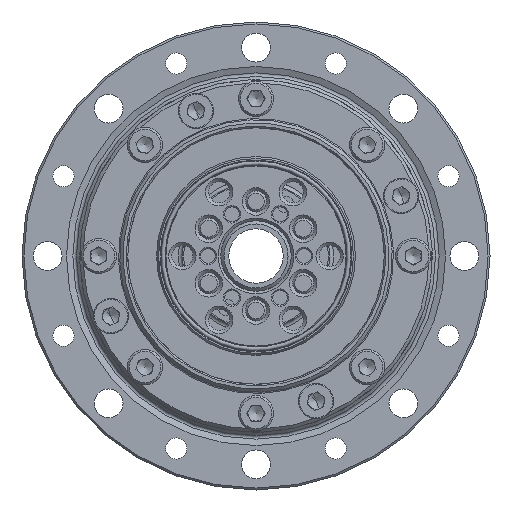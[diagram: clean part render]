
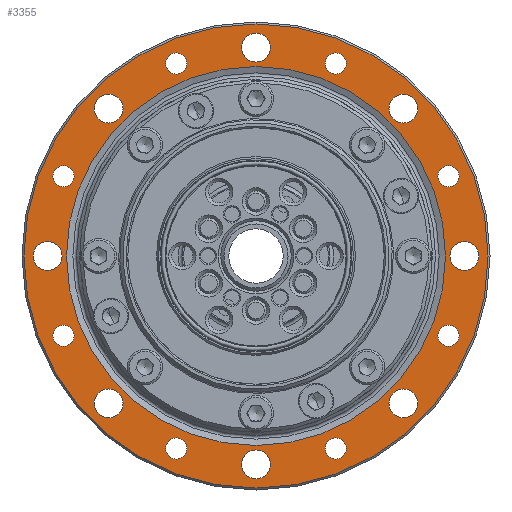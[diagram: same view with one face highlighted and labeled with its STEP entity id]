
A CAD part, left-side view. The second image highlights one B-rep face of the part: STEP entity #3355.
In plain terms, the highlighted planar face has unit normal (-1, 0, 0).
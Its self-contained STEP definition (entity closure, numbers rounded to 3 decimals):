
#3355=ADVANCED_FACE('',(#4889,#4890,#4891,#4892,#4893,#4894,#4895,#4896,
#4897,#4898,#4899,#4900,#4901,#4902,#4903,#4904,#4905,#4906),#4312,.T.);
#4312=PLANE('',#16591);
#4889=FACE_BOUND('',#6475,.T.);
#4890=FACE_BOUND('',#6476,.T.);
#4891=FACE_BOUND('',#6477,.T.);
#4892=FACE_BOUND('',#6478,.T.);
#4893=FACE_BOUND('',#6479,.T.);
#4894=FACE_BOUND('',#6480,.T.);
#4895=FACE_BOUND('',#6481,.T.);
#4896=FACE_BOUND('',#6482,.T.);
#4897=FACE_BOUND('',#6483,.T.);
#4898=FACE_BOUND('',#6484,.T.);
#4899=FACE_BOUND('',#6485,.T.);
#4900=FACE_BOUND('',#6486,.T.);
#4901=FACE_BOUND('',#6487,.T.);
#4902=FACE_BOUND('',#6488,.T.);
#4903=FACE_BOUND('',#6489,.T.);
#4904=FACE_BOUND('',#6490,.T.);
#4905=FACE_BOUND('',#6491,.T.);
#4906=FACE_BOUND('',#6492,.T.);
#6475=EDGE_LOOP('',(#9065));
#6476=EDGE_LOOP('',(#9066));
#6477=EDGE_LOOP('',(#9067));
#6478=EDGE_LOOP('',(#9068));
#6479=EDGE_LOOP('',(#9069));
#6480=EDGE_LOOP('',(#9070));
#6481=EDGE_LOOP('',(#9071));
#6482=EDGE_LOOP('',(#9072));
#6483=EDGE_LOOP('',(#9073));
#6484=EDGE_LOOP('',(#9074));
#6485=EDGE_LOOP('',(#9075));
#6486=EDGE_LOOP('',(#9076));
#6487=EDGE_LOOP('',(#9077));
#6488=EDGE_LOOP('',(#9078));
#6489=EDGE_LOOP('',(#9079));
#6490=EDGE_LOOP('',(#9080));
#6491=EDGE_LOOP('',(#9081));
#6492=EDGE_LOOP('',(#9082));
#9065=ORIENTED_EDGE('',*,*,#13389,.T.);
#9066=ORIENTED_EDGE('',*,*,#13390,.T.);
#9067=ORIENTED_EDGE('',*,*,#13391,.T.);
#9068=ORIENTED_EDGE('',*,*,#13392,.T.);
#9069=ORIENTED_EDGE('',*,*,#13393,.T.);
#9070=ORIENTED_EDGE('',*,*,#13394,.T.);
#9071=ORIENTED_EDGE('',*,*,#13395,.T.);
#9072=ORIENTED_EDGE('',*,*,#13396,.T.);
#9073=ORIENTED_EDGE('',*,*,#13397,.T.);
#9074=ORIENTED_EDGE('',*,*,#13398,.T.);
#9075=ORIENTED_EDGE('',*,*,#13399,.T.);
#9076=ORIENTED_EDGE('',*,*,#13400,.T.);
#9077=ORIENTED_EDGE('',*,*,#13401,.T.);
#9078=ORIENTED_EDGE('',*,*,#13402,.T.);
#9079=ORIENTED_EDGE('',*,*,#13403,.T.);
#9080=ORIENTED_EDGE('',*,*,#13404,.T.);
#9081=ORIENTED_EDGE('',*,*,#13405,.T.);
#9082=ORIENTED_EDGE('',*,*,#13388,.F.);
#11867=VERTEX_POINT('',#26911);
#11868=VERTEX_POINT('',#26914);
#11869=VERTEX_POINT('',#26916);
#11870=VERTEX_POINT('',#26918);
#11871=VERTEX_POINT('',#26920);
#11872=VERTEX_POINT('',#26922);
#11873=VERTEX_POINT('',#26924);
#11874=VERTEX_POINT('',#26926);
#11875=VERTEX_POINT('',#26928);
#11876=VERTEX_POINT('',#26930);
#11877=VERTEX_POINT('',#26932);
#11878=VERTEX_POINT('',#26934);
#11879=VERTEX_POINT('',#26936);
#11880=VERTEX_POINT('',#26938);
#11881=VERTEX_POINT('',#26940);
#11882=VERTEX_POINT('',#26942);
#11883=VERTEX_POINT('',#26944);
#11884=VERTEX_POINT('',#26946);
#13388=EDGE_CURVE('',#11867,#11867,#14979,.T.);
#13389=EDGE_CURVE('',#11868,#11868,#14980,.T.);
#13390=EDGE_CURVE('',#11869,#11869,#14981,.T.);
#13391=EDGE_CURVE('',#11870,#11870,#14982,.T.);
#13392=EDGE_CURVE('',#11871,#11871,#14983,.T.);
#13393=EDGE_CURVE('',#11872,#11872,#14984,.T.);
#13394=EDGE_CURVE('',#11873,#11873,#14985,.T.);
#13395=EDGE_CURVE('',#11874,#11874,#14986,.T.);
#13396=EDGE_CURVE('',#11875,#11875,#14987,.T.);
#13397=EDGE_CURVE('',#11876,#11876,#14988,.T.);
#13398=EDGE_CURVE('',#11877,#11877,#14989,.T.);
#13399=EDGE_CURVE('',#11878,#11878,#14990,.T.);
#13400=EDGE_CURVE('',#11879,#11879,#14991,.T.);
#13401=EDGE_CURVE('',#11880,#11880,#14992,.T.);
#13402=EDGE_CURVE('',#11881,#11881,#14993,.T.);
#13403=EDGE_CURVE('',#11882,#11882,#14994,.T.);
#13404=EDGE_CURVE('',#11883,#11883,#14995,.T.);
#13405=EDGE_CURVE('',#11884,#11884,#14996,.T.);
#14979=CIRCLE('',#16572,29.561);
#14980=CIRCLE('',#16574,36.2);
#14981=CIRCLE('',#16575,1.65);
#14982=CIRCLE('',#16576,1.65);
#14983=CIRCLE('',#16577,1.65);
#14984=CIRCLE('',#16578,1.65);
#14985=CIRCLE('',#16579,1.65);
#14986=CIRCLE('',#16580,1.65);
#14987=CIRCLE('',#16581,1.65);
#14988=CIRCLE('',#16582,1.65);
#14989=CIRCLE('',#16583,2.25);
#14990=CIRCLE('',#16584,2.25);
#14991=CIRCLE('',#16585,2.25);
#14992=CIRCLE('',#16586,2.25);
#14993=CIRCLE('',#16587,2.25);
#14994=CIRCLE('',#16588,2.25);
#14995=CIRCLE('',#16589,2.25);
#14996=CIRCLE('',#16590,2.25);
#16572=AXIS2_PLACEMENT_3D('',#26910,#19346,#19347);
#16574=AXIS2_PLACEMENT_3D('',#26913,#19350,#19351);
#16575=AXIS2_PLACEMENT_3D('',#26915,#19352,#19353);
#16576=AXIS2_PLACEMENT_3D('',#26917,#19354,#19355);
#16577=AXIS2_PLACEMENT_3D('',#26919,#19356,#19357);
#16578=AXIS2_PLACEMENT_3D('',#26921,#19358,#19359);
#16579=AXIS2_PLACEMENT_3D('',#26923,#19360,#19361);
#16580=AXIS2_PLACEMENT_3D('',#26925,#19362,#19363);
#16581=AXIS2_PLACEMENT_3D('',#26927,#19364,#19365);
#16582=AXIS2_PLACEMENT_3D('',#26929,#19366,#19367);
#16583=AXIS2_PLACEMENT_3D('',#26931,#19368,#19369);
#16584=AXIS2_PLACEMENT_3D('',#26933,#19370,#19371);
#16585=AXIS2_PLACEMENT_3D('',#26935,#19372,#19373);
#16586=AXIS2_PLACEMENT_3D('',#26937,#19374,#19375);
#16587=AXIS2_PLACEMENT_3D('',#26939,#19376,#19377);
#16588=AXIS2_PLACEMENT_3D('',#26941,#19378,#19379);
#16589=AXIS2_PLACEMENT_3D('',#26943,#19380,#19381);
#16590=AXIS2_PLACEMENT_3D('',#26945,#19382,#19383);
#16591=AXIS2_PLACEMENT_3D('',#26947,#19384,#19385);
#19346=DIRECTION('',(-1.,0.,0.));
#19347=DIRECTION('',(0.,0.,1.));
#19350=DIRECTION('',(-1.,0.,0.));
#19351=DIRECTION('',(0.,0.,1.));
#19352=DIRECTION('',(1.,0.,0.));
#19353=DIRECTION('',(0.,0.,-1.));
#19354=DIRECTION('',(1.,0.,0.));
#19355=DIRECTION('',(0.,0.,-1.));
#19356=DIRECTION('',(1.,0.,0.));
#19357=DIRECTION('',(0.,0.,-1.));
#19358=DIRECTION('',(1.,0.,0.));
#19359=DIRECTION('',(0.,0.,-1.));
#19360=DIRECTION('',(1.,0.,0.));
#19361=DIRECTION('',(0.,0.,-1.));
#19362=DIRECTION('',(1.,0.,0.));
#19363=DIRECTION('',(0.,0.,-1.));
#19364=DIRECTION('',(1.,0.,0.));
#19365=DIRECTION('',(0.,0.,-1.));
#19366=DIRECTION('',(1.,0.,0.));
#19367=DIRECTION('',(0.,0.,-1.));
#19368=DIRECTION('',(1.,0.,0.));
#19369=DIRECTION('',(0.,0.,-1.));
#19370=DIRECTION('',(1.,0.,0.));
#19371=DIRECTION('',(0.,0.,-1.));
#19372=DIRECTION('',(1.,0.,0.));
#19373=DIRECTION('',(0.,0.,-1.));
#19374=DIRECTION('',(1.,0.,0.));
#19375=DIRECTION('',(0.,0.,-1.));
#19376=DIRECTION('',(1.,0.,0.));
#19377=DIRECTION('',(0.,0.,-1.));
#19378=DIRECTION('',(1.,0.,0.));
#19379=DIRECTION('',(0.,0.,-1.));
#19380=DIRECTION('',(1.,0.,0.));
#19381=DIRECTION('',(0.,0.,-1.));
#19382=DIRECTION('',(1.,0.,0.));
#19383=DIRECTION('',(0.,0.,-1.));
#19384=DIRECTION('',(-1.,0.,0.));
#19385=DIRECTION('',(0.,0.,1.));
#26910=CARTESIAN_POINT('',(-7.,0.,0.));
#26911=CARTESIAN_POINT('',(-7.,0.,29.561));
#26913=CARTESIAN_POINT('',(-7.,0.,0.));
#26914=CARTESIAN_POINT('',(-7.,0.,36.2));
#26915=CARTESIAN_POINT('',(-7.,12.437,30.026));
#26916=CARTESIAN_POINT('',(-7.,12.437,28.376));
#26917=CARTESIAN_POINT('',(-7.,30.026,12.437));
#26918=CARTESIAN_POINT('',(-7.,30.026,10.787));
#26919=CARTESIAN_POINT('',(-7.,30.026,-12.437));
#26920=CARTESIAN_POINT('',(-7.,30.026,-14.087));
#26921=CARTESIAN_POINT('',(-7.,12.437,-30.026));
#26922=CARTESIAN_POINT('',(-7.,12.437,-31.676));
#26923=CARTESIAN_POINT('',(-7.,-12.437,-30.026));
#26924=CARTESIAN_POINT('',(-7.,-12.437,-31.676));
#26925=CARTESIAN_POINT('',(-7.,-30.026,-12.437));
#26926=CARTESIAN_POINT('',(-7.,-30.026,-14.087));
#26927=CARTESIAN_POINT('',(-7.,-30.026,12.437));
#26928=CARTESIAN_POINT('',(-7.,-30.026,10.787));
#26929=CARTESIAN_POINT('',(-7.,-12.437,30.026));
#26930=CARTESIAN_POINT('',(-7.,-12.437,28.376));
#26931=CARTESIAN_POINT('',(-7.,22.981,22.981));
#26932=CARTESIAN_POINT('',(-7.,22.981,20.731));
#26933=CARTESIAN_POINT('',(-7.,32.5,0.));
#26934=CARTESIAN_POINT('',(-7.,32.5,-2.25));
#26935=CARTESIAN_POINT('',(-7.,22.981,-22.981));
#26936=CARTESIAN_POINT('',(-7.,22.981,-25.231));
#26937=CARTESIAN_POINT('',(-7.,0.,-32.5));
#26938=CARTESIAN_POINT('',(-7.,0.,-34.75));
#26939=CARTESIAN_POINT('',(-7.,-22.981,-22.981));
#26940=CARTESIAN_POINT('',(-7.,-22.981,-25.231));
#26941=CARTESIAN_POINT('',(-7.,-32.5,0.));
#26942=CARTESIAN_POINT('',(-7.,-32.5,-2.25));
#26943=CARTESIAN_POINT('',(-7.,-22.981,22.981));
#26944=CARTESIAN_POINT('',(-7.,-22.981,20.731));
#26945=CARTESIAN_POINT('',(-7.,0.,32.5));
#26946=CARTESIAN_POINT('',(-7.,0.,30.25));
#26947=CARTESIAN_POINT('',(-7.,0.,29.561));
